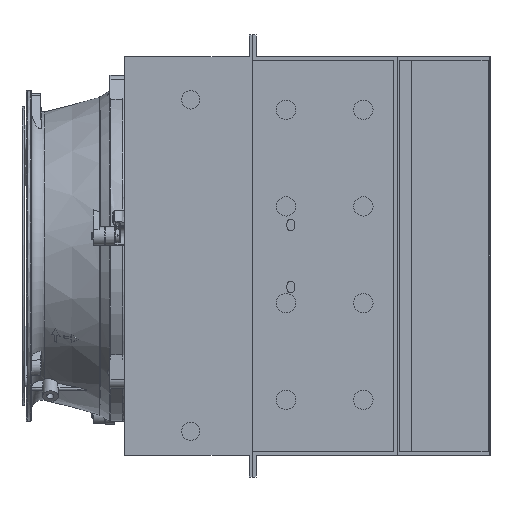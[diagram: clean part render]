
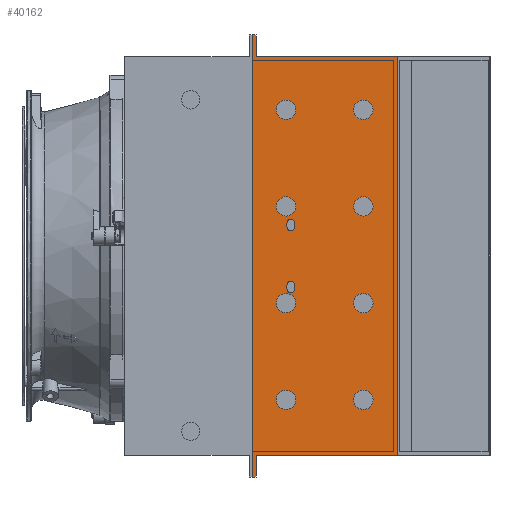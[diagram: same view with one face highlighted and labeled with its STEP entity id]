
A CAD part, left-side view. The second image highlights one B-rep face of the part: STEP entity #40162.
In plain terms, the highlighted planar face has unit normal (-1, 0, 0).
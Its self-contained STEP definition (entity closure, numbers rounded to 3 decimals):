
#1291=FACE_BOUND('',#7123,.T.);
#1292=FACE_BOUND('',#7124,.T.);
#2840=PLANE('',#43471);
#4816=FACE_OUTER_BOUND('',#7122,.T.);
#7122=EDGE_LOOP('',(#36895,#36896,#36897,#36898,#36899,#36900,#36901,#36902));
#7123=EDGE_LOOP('',(#36903,#36904,#36905,#36906));
#7124=EDGE_LOOP('',(#36907,#36908,#36909,#36910));
#11066=LINE('',#67315,#15394);
#11070=LINE('',#67325,#15398);
#11073=LINE('',#67333,#15401);
#11078=LINE('',#67346,#15406);
#11197=LINE('',#67796,#15525);
#11242=LINE('',#67889,#15570);
#11244=LINE('',#67895,#15572);
#11248=LINE('',#67901,#15576);
#11261=LINE('',#67931,#15589);
#11281=LINE('',#67974,#15609);
#11302=LINE('',#68021,#15630);
#11303=LINE('',#68022,#15631);
#15394=VECTOR('',#52629,10.);
#15398=VECTOR('',#52641,10.);
#15401=VECTOR('',#52646,10.);
#15406=VECTOR('',#52659,10.);
#15525=VECTOR('',#53122,10.);
#15570=VECTOR('',#53197,10.);
#15572=VECTOR('',#53201,10.);
#15576=VECTOR('',#53207,10.);
#15589=VECTOR('',#53238,10.);
#15609=VECTOR('',#53284,10.);
#15630=VECTOR('',#53333,10.);
#15631=VECTOR('',#53334,10.);
#16774=CIRCLE('',#43236,2.);
#16776=CIRCLE('',#43240,2.);
#16778=CIRCLE('',#43245,2.);
#16780=CIRCLE('',#43249,2.);
#20218=VERTEX_POINT('',#67306);
#20219=VERTEX_POINT('',#67308);
#20221=VERTEX_POINT('',#67314);
#20223=VERTEX_POINT('',#67320);
#20226=VERTEX_POINT('',#67330);
#20227=VERTEX_POINT('',#67332);
#20229=VERTEX_POINT('',#67338);
#20231=VERTEX_POINT('',#67344);
#20389=VERTEX_POINT('',#67793);
#20390=VERTEX_POINT('',#67795);
#20421=VERTEX_POINT('',#67883);
#20423=VERTEX_POINT('',#67887);
#20424=VERTEX_POINT('',#67891);
#20426=VERTEX_POINT('',#67894);
#20435=VERTEX_POINT('',#67929);
#20457=VERTEX_POINT('',#68020);
#25657=EDGE_CURVE('',#20219,#20218,#16774,.T.);
#25660=EDGE_CURVE('',#20221,#20219,#11066,.T.);
#25663=EDGE_CURVE('',#20223,#20221,#16776,.T.);
#25666=EDGE_CURVE('',#20218,#20223,#11070,.T.);
#25669=EDGE_CURVE('',#20227,#20226,#11073,.T.);
#25673=EDGE_CURVE('',#20226,#20229,#16778,.T.);
#25676=EDGE_CURVE('',#20229,#20231,#11078,.T.);
#25678=EDGE_CURVE('',#20231,#20227,#16780,.T.);
#25900=EDGE_CURVE('',#20390,#20389,#11197,.T.);
#25946=EDGE_CURVE('',#20421,#20423,#11242,.T.);
#25948=EDGE_CURVE('',#20424,#20426,#11244,.T.);
#25952=EDGE_CURVE('',#20426,#20423,#11248,.T.);
#25967=EDGE_CURVE('',#20389,#20435,#11261,.T.);
#25989=EDGE_CURVE('',#20421,#20435,#11281,.T.);
#26012=EDGE_CURVE('',#20457,#20424,#11302,.T.);
#26013=EDGE_CURVE('',#20390,#20457,#11303,.T.);
#36895=ORIENTED_EDGE('',*,*,#25900,.T.);
#36896=ORIENTED_EDGE('',*,*,#25967,.T.);
#36897=ORIENTED_EDGE('',*,*,#25989,.F.);
#36898=ORIENTED_EDGE('',*,*,#25946,.T.);
#36899=ORIENTED_EDGE('',*,*,#25952,.F.);
#36900=ORIENTED_EDGE('',*,*,#25948,.F.);
#36901=ORIENTED_EDGE('',*,*,#26012,.F.);
#36902=ORIENTED_EDGE('',*,*,#26013,.F.);
#36903=ORIENTED_EDGE('',*,*,#25657,.T.);
#36904=ORIENTED_EDGE('',*,*,#25666,.T.);
#36905=ORIENTED_EDGE('',*,*,#25663,.T.);
#36906=ORIENTED_EDGE('',*,*,#25660,.T.);
#36907=ORIENTED_EDGE('',*,*,#25669,.T.);
#36908=ORIENTED_EDGE('',*,*,#25673,.T.);
#36909=ORIENTED_EDGE('',*,*,#25676,.T.);
#36910=ORIENTED_EDGE('',*,*,#25678,.T.);
#40162=ADVANCED_FACE('',(#4816,#1291,#1292),#2840,.T.);
#43236=AXIS2_PLACEMENT_3D('',#67309,#52623,#52624);
#43240=AXIS2_PLACEMENT_3D('',#67321,#52635,#52636);
#43245=AXIS2_PLACEMENT_3D('',#67340,#52653,#52654);
#43249=AXIS2_PLACEMENT_3D('',#67349,#52664,#52665);
#43471=AXIS2_PLACEMENT_3D('',#68019,#53331,#53332);
#52623=DIRECTION('center_axis',(1.,0.,0.));
#52624=DIRECTION('ref_axis',(0.,1.,0.));
#52629=DIRECTION('',(0.,0.,-1.));
#52635=DIRECTION('center_axis',(1.,0.,0.));
#52636=DIRECTION('ref_axis',(0.,-1.,0.));
#52641=DIRECTION('',(0.,0.,1.));
#52646=DIRECTION('',(0.,0.,-1.));
#52653=DIRECTION('center_axis',(1.,0.,0.));
#52654=DIRECTION('ref_axis',(0.,1.,0.));
#52659=DIRECTION('',(0.,0.,1.));
#52664=DIRECTION('center_axis',(1.,0.,0.));
#52665=DIRECTION('ref_axis',(0.,-1.,0.));
#53122=DIRECTION('',(0.,0.,1.));
#53197=DIRECTION('',(0.,1.,0.));
#53201=DIRECTION('',(0.,1.,0.));
#53207=DIRECTION('',(0.,0.,1.));
#53238=DIRECTION('',(0.,1.,0.));
#53284=DIRECTION('',(0.,0.,1.));
#53331=DIRECTION('center_axis',(-1.,0.,0.));
#53332=DIRECTION('ref_axis',(0.,0.,1.));
#53333=DIRECTION('',(0.,0.,1.));
#53334=DIRECTION('',(0.,1.,0.));
#67306=CARTESIAN_POINT('',(-204.47,22.,-17.));
#67308=CARTESIAN_POINT('',(-204.47,18.,-17.));
#67309=CARTESIAN_POINT('Origin',(-204.47,20.,-17.));
#67314=CARTESIAN_POINT('',(-204.47,18.,-15.));
#67315=CARTESIAN_POINT('',(-204.47,18.,-64.65));
#67320=CARTESIAN_POINT('',(-204.47,22.,-15.));
#67321=CARTESIAN_POINT('Origin',(-204.47,20.,-15.));
#67325=CARTESIAN_POINT('',(-204.47,22.,-65.65));
#67330=CARTESIAN_POINT('',(-204.47,18.,15.));
#67332=CARTESIAN_POINT('',(-204.47,18.,17.));
#67333=CARTESIAN_POINT('',(-204.47,18.,-48.65));
#67338=CARTESIAN_POINT('',(-204.47,22.,15.));
#67340=CARTESIAN_POINT('Origin',(-204.47,20.,15.));
#67344=CARTESIAN_POINT('',(-204.47,22.,17.));
#67346=CARTESIAN_POINT('',(-204.47,22.,-49.65));
#67349=CARTESIAN_POINT('Origin',(-204.47,20.,17.));
#67793=CARTESIAN_POINT('',(-204.47,0.,114.3));
#67795=CARTESIAN_POINT('',(-204.47,0.,-114.3));
#67796=CARTESIAN_POINT('',(-204.47,0.,-114.3));
#67883=CARTESIAN_POINT('',(-204.47,2.,103.124));
#67887=CARTESIAN_POINT('',(-204.47,75.,103.124));
#67889=CARTESIAN_POINT('',(-204.47,0.,103.124));
#67891=CARTESIAN_POINT('',(-204.47,2.,-103.124));
#67894=CARTESIAN_POINT('',(-204.47,75.,-103.124));
#67895=CARTESIAN_POINT('',(-204.47,0.,-103.124));
#67901=CARTESIAN_POINT('',(-204.47,75.,-103.124));
#67929=CARTESIAN_POINT('',(-204.47,2.,114.3));
#67931=CARTESIAN_POINT('',(-204.47,0.,114.3));
#67974=CARTESIAN_POINT('',(-204.47,2.,103.124));
#68019=CARTESIAN_POINT('Origin',(-204.47,0.,-114.3));
#68020=CARTESIAN_POINT('',(-204.47,2.,-114.3));
#68021=CARTESIAN_POINT('',(-204.47,2.,-114.3));
#68022=CARTESIAN_POINT('',(-204.47,0.,-114.3));
